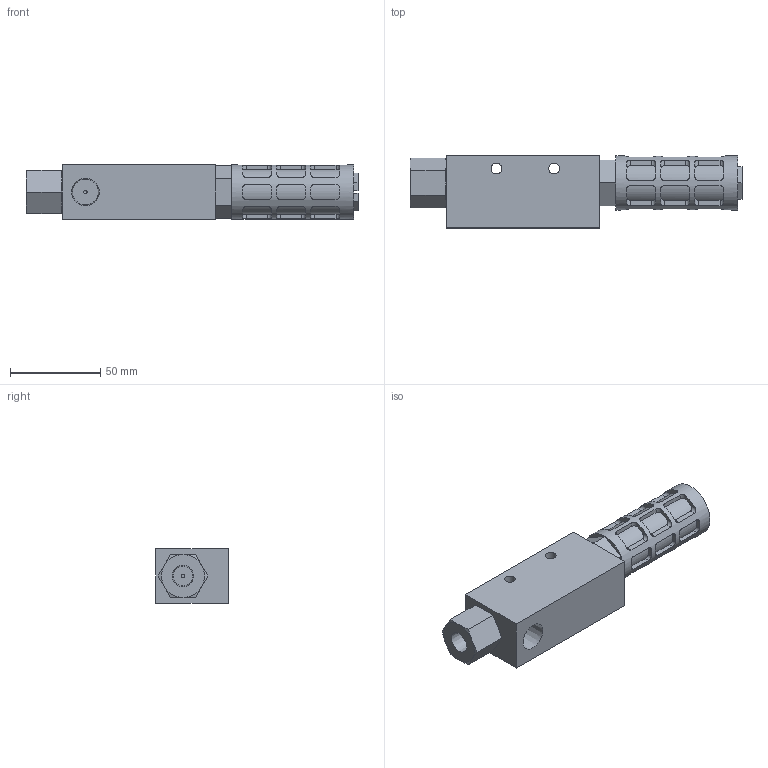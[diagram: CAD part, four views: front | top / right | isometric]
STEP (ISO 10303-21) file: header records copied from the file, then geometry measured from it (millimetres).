
FILE_DESCRIPTION(('STEP AP203'),'1');
FILE_NAME('BCV-20HS.stp','2025-06-05T06:25:44',(' '),(' '),'Spatial InterOp 3D',' ',' ');
FILE_SCHEMA(('CONFIG_CONTROL_DESIGN'));
Length unit declared in the file: millimetre
Products named in the file (3): BCV-20HS.ics; BCV-20HSNS; BMSL-02
Assembly tree (2 placements, depth 2):
  BCV-20HS.ics
    BCV-20HSNS
    BMSL-02
Bounding box: 184.3 x 40 x 30 mm (x, y, z)
Volume: 152516.6 mm3; surface area: 30740.3 mm2
Topology: 2 solids, 2 shells, 222 faces, 567 edges, 374 vertices
Faces by surface type: plane 109, cylinder 96, cone 17
Full cylindrical faces by diameter (mm): 2 x2, 6 x2, 19.08 x1, 30 x1
Entity records: 8600 total; most frequent: CARTESIAN_POINT 3335, ORIENTED_EDGE 1108, DIRECTION 940, EDGE_CURVE 554, VERTEX_POINT 372, AXIS2_PLACEMENT_3D 329, LINE 282, VECTOR 282
